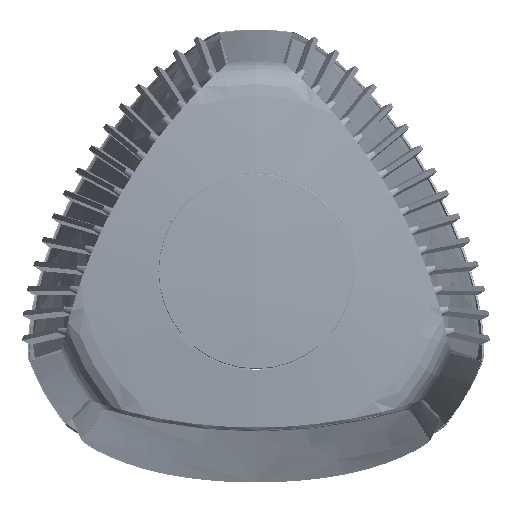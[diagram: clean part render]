
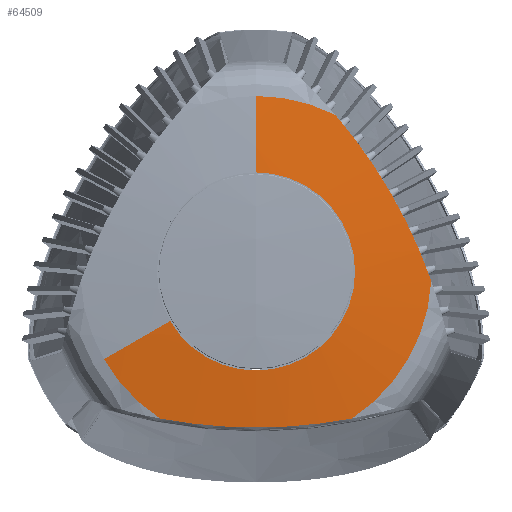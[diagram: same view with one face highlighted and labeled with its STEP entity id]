
A CAD part, top view. The second image highlights one B-rep face of the part: STEP entity #64509.
In plain terms, the highlighted spherical face has radius 1500 mm.
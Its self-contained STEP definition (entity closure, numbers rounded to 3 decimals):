
#164=CARTESIAN_POINT('',(0.,0.,-459.));
#165=DIRECTION('',(-1.,0.,0.));
#166=DIRECTION('',(0.,0.064,0.998));
#167=AXIS2_PLACEMENT_3D('',#164,#165,#166);
#173=CARTESIAN_POINT('',(170.748,-9.285,1031.221));
#174=CARTESIAN_POINT('',(169.96,-7.041,1031.325));
#175=CARTESIAN_POINT('',(168.359,-2.581,1031.525));
#176=CARTESIAN_POINT('',(165.88,4.032,1031.8));
#177=CARTESIAN_POINT('',(163.325,10.569,1032.05));
#178=CARTESIAN_POINT('',(160.695,17.033,1032.276));
#179=CARTESIAN_POINT('',(157.99,23.426,1032.478));
#180=CARTESIAN_POINT('',(155.205,29.765,1032.657));
#181=CARTESIAN_POINT('',(152.335,36.062,1032.814));
#182=CARTESIAN_POINT('',(149.38,42.316,1032.949));
#183=CARTESIAN_POINT('',(146.34,48.53,1033.061));
#184=CARTESIAN_POINT('',(143.214,54.704,1033.151));
#185=CARTESIAN_POINT('',(140.002,60.836,1033.218));
#186=CARTESIAN_POINT('',(136.705,66.926,1033.263));
#187=CARTESIAN_POINT('',(133.324,72.973,1033.285));
#188=CARTESIAN_POINT('',(129.859,78.975,1033.285));
#189=CARTESIAN_POINT('',(126.312,84.927,1033.263));
#190=CARTESIAN_POINT('',(122.687,90.827,1033.218));
#191=CARTESIAN_POINT('',(118.982,96.674,1033.151));
#192=CARTESIAN_POINT('',(115.198,102.469,1033.061));
#193=CARTESIAN_POINT('',(111.337,108.209,1032.949));
#194=CARTESIAN_POINT('',(107.398,113.895,1032.814));
#195=CARTESIAN_POINT('',(103.38,119.529,1032.657));
#196=CARTESIAN_POINT('',(99.282,125.111,1032.478));
#197=CARTESIAN_POINT('',(95.099,130.649,1032.276));
#198=CARTESIAN_POINT('',(90.815,136.159,1032.05));
#199=CARTESIAN_POINT('',(86.432,141.64,1031.8));
#200=CARTESIAN_POINT('',(81.944,147.094,1031.525));
#201=CARTESIAN_POINT('',(78.882,150.71,1031.325));
#202=CARTESIAN_POINT('',(77.333,152.514,1031.221));
#207=CARTESIAN_POINT('',(-93.415,-143.229,1031.221));
#208=CARTESIAN_POINT('',(-91.078,-143.669,1031.325));
#209=CARTESIAN_POINT('',(-86.415,-144.513,1031.525));
#210=CARTESIAN_POINT('',(-79.448,-145.672,1031.8));
#211=CARTESIAN_POINT('',(-72.51,-146.728,1032.05));
#212=CARTESIAN_POINT('',(-65.596,-147.682,1032.276));
#213=CARTESIAN_POINT('',(-58.708,-148.536,1032.478));
#214=CARTESIAN_POINT('',(-51.826,-149.294,1032.657));
#215=CARTESIAN_POINT('',(-44.937,-149.957,1032.814));
#216=CARTESIAN_POINT('',(-38.043,-150.525,1032.949));
#217=CARTESIAN_POINT('',(-31.142,-150.999,1033.061));
#218=CARTESIAN_POINT('',(-24.232,-151.379,1033.151));
#219=CARTESIAN_POINT('',(-17.315,-151.663,1033.218));
#220=CARTESIAN_POINT('',(-10.393,-151.853,1033.263));
#221=CARTESIAN_POINT('',(-3.465,-151.948,1033.285));
#222=CARTESIAN_POINT('',(3.465,-151.948,1033.285));
#223=CARTESIAN_POINT('',(10.393,-151.853,1033.263));
#224=CARTESIAN_POINT('',(17.315,-151.663,1033.218));
#225=CARTESIAN_POINT('',(24.232,-151.379,1033.151));
#226=CARTESIAN_POINT('',(31.142,-150.999,1033.061));
#227=CARTESIAN_POINT('',(38.043,-150.525,1032.949));
#228=CARTESIAN_POINT('',(44.937,-149.957,1032.814));
#229=CARTESIAN_POINT('',(51.826,-149.294,1032.657));
#230=CARTESIAN_POINT('',(58.708,-148.536,1032.478));
#231=CARTESIAN_POINT('',(65.596,-147.682,1032.276));
#232=CARTESIAN_POINT('',(72.51,-146.728,1032.05));
#233=CARTESIAN_POINT('',(79.448,-145.672,1031.8));
#234=CARTESIAN_POINT('',(86.415,-144.513,1031.525));
#235=CARTESIAN_POINT('',(91.078,-143.669,1031.325));
#236=CARTESIAN_POINT('',(93.415,-143.229,1031.221));
#241=CARTESIAN_POINT('',(0.,0.,-459.));
#242=DIRECTION('',(0.5,-0.866,0.));
#243=DIRECTION('',(-0.056,-0.032,0.998));
#244=AXIS2_PLACEMENT_3D('',#241,#242,#243);
#249=CARTESIAN_POINT('',(0.,0.,1037.893));
#250=DIRECTION('',(0.,0.,1.));
#251=DIRECTION('',(-0.866,-0.5,0.));
#252=AXIS2_PLACEMENT_3D('',#249,#250,#251);
#862=CARTESIAN_POINT('',(0.,0.,1031.221));
#863=DIRECTION('',(0.,0.,1.));
#864=DIRECTION('',(0.546,-0.838,0.));
#865=AXIS2_PLACEMENT_3D('',#862,#863,#864);
#870=CARTESIAN_POINT('',(0.,0.,1031.221));
#871=DIRECTION('',(0.,0.,1.));
#872=DIRECTION('',(0.866,-0.5,0.));
#873=AXIS2_PLACEMENT_3D('',#870,#871,#872);
#913=CARTESIAN_POINT('',(170.748,-9.285,1031.221));
#980=CARTESIAN_POINT('',(0.,0.,1031.221));
#981=DIRECTION('',(0.,0.,1.));
#982=DIRECTION('',(0.452,0.892,0.));
#983=AXIS2_PLACEMENT_3D('',#980,#981,#982);
#1157=CARTESIAN_POINT('',(0.,0.,1031.221));
#1158=DIRECTION('',(0.,0.,1.));
#1159=DIRECTION('',(-0.866,-0.5,0.));
#1160=AXIS2_PLACEMENT_3D('',#1157,#1158,#1159);
#1200=CARTESIAN_POINT('',(-93.415,-143.229,
1031.221));
#60887=VERTEX_POINT('',#1200);
#60888=VERTEX_POINT('',#236);
#60922=VERTEX_POINT('',#913);
#60923=VERTEX_POINT('',#202);
#60938=CARTESIAN_POINT('',(148.09,-85.5,1031.221));
#60939=VERTEX_POINT('',#60938);
#60946=CARTESIAN_POINT('',(0.,96.5,1037.893));
#60947=CARTESIAN_POINT('',(0.,171.,1031.221));
#60948=VERTEX_POINT('',#60946);
#60949=VERTEX_POINT('',#60947);
#60950=CARTESIAN_POINT('',(-83.571,-48.25,1037.893));
#60951=CARTESIAN_POINT('',(-148.09,-85.5,1031.221));
#60952=VERTEX_POINT('',#60950);
#60953=VERTEX_POINT('',#60951);
#64484=CARTESIAN_POINT('',(0.,0.,-459.));
#64485=DIRECTION('',(0.,0.,-1.));
#64486=DIRECTION('',(-0.866,-0.5,0.));
#64487=AXIS2_PLACEMENT_3D('',#64484,#64485,#64486);
#64488=SPHERICAL_SURFACE('',#64487,1500.);
#64490=ORIENTED_EDGE('',*,*,#64489,.T.);
#64492=ORIENTED_EDGE('',*,*,#64491,.F.);
#64494=ORIENTED_EDGE('',*,*,#64493,.F.);
#64496=ORIENTED_EDGE('',*,*,#64495,.F.);
#64498=ORIENTED_EDGE('',*,*,#64497,.F.);
#64500=ORIENTED_EDGE('',*,*,#64499,.F.);
#64502=ORIENTED_EDGE('',*,*,#64501,.F.);
#64504=ORIENTED_EDGE('',*,*,#64503,.F.);
#64506=ORIENTED_EDGE('',*,*,#64505,.T.);
#64507=EDGE_LOOP('',(#64490,#64492,#64494,#64496,#64498,#64500,#64502,#64504,
#64506));
#64508=FACE_OUTER_BOUND('',#64507,.F.);
#64509=ADVANCED_FACE('',(#64508),#64488,.T.);
#168=CIRCLE('',#167,1500.);
#203=B_SPLINE_CURVE_WITH_KNOTS('',3,(#173,#174,#175,#176,#177,#178,#179,#180,
#181,#182,#183,#184,#185,#186,#187,#188,#189,#190,#191,#192,#193,#194,#195,#196,
#197,#198,#199,#200,#201,#202),.UNSPECIFIED.,.F.,.F.,(4,1,1,1,1,1,1,1,1,1,1,1,1,
1,1,1,1,1,1,1,1,1,1,1,1,1,1,4),(0.,0.037,0.074,
0.111,0.148,0.185,0.222,
0.259,0.296,0.333,0.37,
0.407,0.444,0.481,0.519,
0.556,0.593,0.63,0.667,
0.704,0.741,0.778,0.815,
0.852,0.889,0.926,0.963,1.),
.UNSPECIFIED.);
#237=B_SPLINE_CURVE_WITH_KNOTS('',3,(#207,#208,#209,#210,#211,#212,#213,#214,
#215,#216,#217,#218,#219,#220,#221,#222,#223,#224,#225,#226,#227,#228,#229,#230,
#231,#232,#233,#234,#235,#236),.UNSPECIFIED.,.F.,.F.,(4,1,1,1,1,1,1,1,1,1,1,1,1,
1,1,1,1,1,1,1,1,1,1,1,1,1,1,4),(0.,0.037,0.074,
0.111,0.148,0.185,0.222,
0.259,0.296,0.333,0.37,
0.407,0.444,0.481,0.519,
0.556,0.593,0.63,0.667,
0.704,0.741,0.778,0.815,
0.852,0.889,0.926,0.963,1.),
.UNSPECIFIED.);
#245=CIRCLE('',#244,1500.);
#253=CIRCLE('',#252,96.5);
#866=CIRCLE('',#865,171.);
#874=CIRCLE('',#873,171.);
#984=CIRCLE('',#983,171.);
#1161=CIRCLE('',#1160,171.);
#64489=EDGE_CURVE('',#60948,#60949,#168,.T.);
#64491=EDGE_CURVE('',#60923,#60949,#984,.T.);
#64493=EDGE_CURVE('',#60922,#60923,#203,.T.);
#64495=EDGE_CURVE('',#60939,#60922,#874,.T.);
#64497=EDGE_CURVE('',#60888,#60939,#866,.T.);
#64499=EDGE_CURVE('',#60887,#60888,#237,.T.);
#64501=EDGE_CURVE('',#60953,#60887,#1161,.T.);
#64503=EDGE_CURVE('',#60952,#60953,#245,.T.);
#64505=EDGE_CURVE('',#60952,#60948,#253,.T.);
